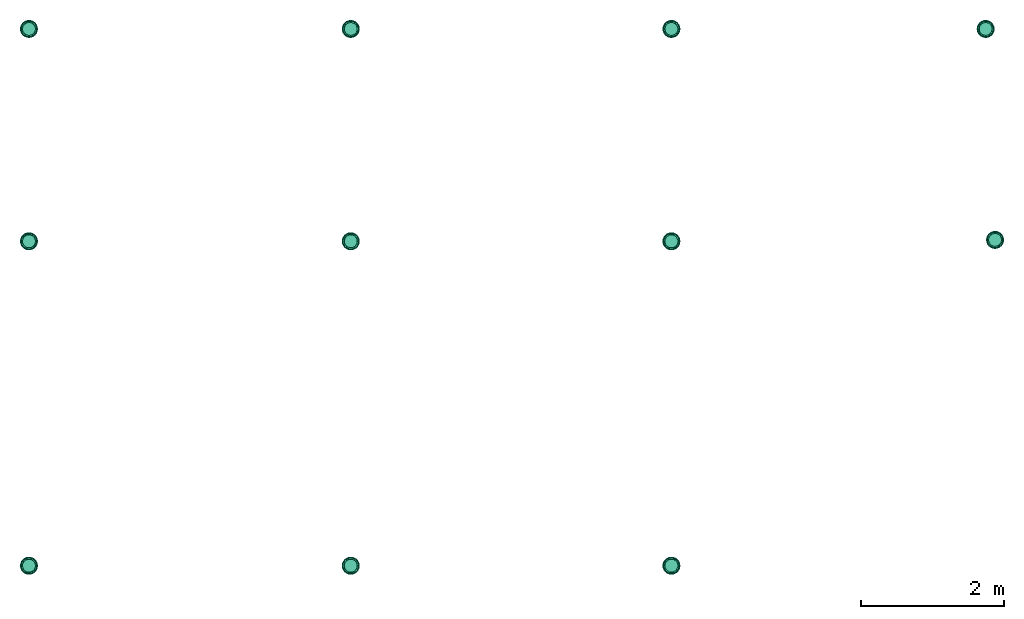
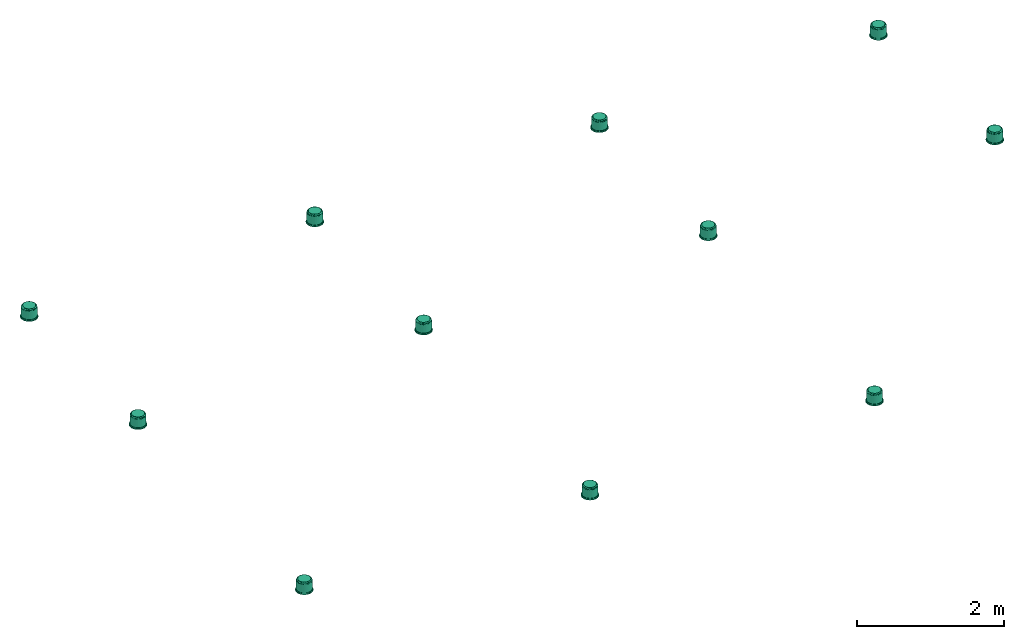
# One storey: 11 flow terminals.
"""IFC2X3 building model written with IfcOpenShell, lengths in millimetres."""

from ifc_helpers import new_model, entity, si_unit, converted_unit, derived_unit, direction, frame, origin_with_axes, place, context, subcontext, project, spatial, open_shell, surface_model, source, transform, mapped, type_object, element, save


model = new_model("IFC2X3")

# Units and contexts
model_context = context("Model", 3, precision=0.01, world=frame((0.0, 4.29681676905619e-09, 0.0)), true_north=direction((4.01073788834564e-13, 1.0)))
plan_context = context("Plan", 3, precision=0.01, world=frame((0.0, 4.29681676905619e-09, 0.0)), true_north=direction((4.01073788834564e-13, 1.0)))
body_context = subcontext(model_context, "Body", "Model", "MODEL_VIEW")
ifc_project = project(units=[converted_unit("PLANEANGLEUNIT", "DEGREE", entity("IfcPositiveLengthMeasure", 0.0174532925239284), si_unit("PLANEANGLEUNIT", "RADIAN"), dimensions=[0, 0, 0, 0, 0, 0, 0]), si_unit("AREAUNIT", "SQUARE_METRE"), si_unit("LENGTHUNIT", "METRE", prefix="MILLI"), si_unit("MASSUNIT", "GRAM", prefix="KILO"), si_unit("POWERUNIT", "WATT"), si_unit("PRESSUREUNIT", "PASCAL"), si_unit("FORCEUNIT", "NEWTON", prefix="KILO"), si_unit("ELECTRICVOLTAGEUNIT", "VOLT"), si_unit("ELECTRICCURRENTUNIT", "AMPERE"), si_unit("THERMODYNAMICTEMPERATUREUNIT", "DEGREE_CELSIUS"), si_unit("TIMEUNIT", "SECOND"), si_unit("VOLUMEUNIT", "CUBIC_METRE"), derived_unit("LINEARVELOCITYUNIT", [(si_unit("LENGTHUNIT", "METRE"), 1), (si_unit("TIMEUNIT", "SECOND"), -1)]), derived_unit("VOLUMETRICFLOWRATEUNIT", [(si_unit("VOLUMEUNIT", "CUBIC_METRE"), 1), (si_unit("TIMEUNIT", "SECOND"), -1)]), derived_unit("THERMALTRANSMITTANCEUNIT", [(si_unit("POWERUNIT", "WATT"), 1), (si_unit("THERMODYNAMICTEMPERATUREUNIT", "KELVIN"), -1), (si_unit("AREAUNIT", "SQUARE_METRE"), -1)]), derived_unit("SOUNDPRESSUREUNIT", [(si_unit("PRESSUREUNIT", "PASCAL"), 1)])], contexts=[model_context, plan_context])

# Site, building, storey
site_placement = place(None, frame((0.0, -4.29681676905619e-09, 0.0), z_axis=(0.0, 0.0, 1.0), x_axis=(1.0, 0.0, 0.0)))
site = spatial("IfcSite", under=ifc_project, at=site_placement, Name="ENGM", CompositionType="ELEMENT")
building_placement = place(site_placement, frame((0.0, 4.29681676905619e-09, 0.0), z_axis=(0.0, 0.0, 1.0), x_axis=(1.0, 0.0, 0.0)))
building = spatial("IfcBuilding", under=site, at=building_placement, Name="TS", CompositionType="ELEMENT")
storey_placement = place(building_placement, frame((0.0, 0.0, 207370.0), z_axis=(0.0, 0.0, 1.0), x_axis=(1.0, 0.0, 0.0)))
storey = spatial("IfcBuildingStorey", under=building, at=storey_placement, Name="Nivå E", CompositionType="ELEMENT", Elevation=207370.0)

# Flow terminals
electric_appliance_type = type_object("IfcElectricApplianceType", Name="Høyttaler innfelt", PredefinedType="NOTDEFINED")
shared_shape = source(origin_with_axes(), body_context, "Body", "SurfaceModel", [
    surface_model("IfcShellBasedSurfaceModel", [(-68.944, 57.85088, 184.0), (-58.59195, 79.97902, 179.50754), (-80.0329, 55.28406, 180.76938), (-78.29994, 75.83774, 166.88554), (-50.40099, 96.24365, 167.73947), (-65.24416, 89.80089, 159.0), (-45.0, 77.94229, 184.0), (104.29833, 0.0, 174.69059), (98.55658, 30.89802, 175.83351), (97.14917, 0.0, 179.3453), (-98.55658, 30.89802, 175.83351), (-104.29833, 0.0, 174.69059), (-97.14917, 0.0, 179.3453), (93.09772, 49.71788, 173.10261), (104.32878, 23.10743, 171.13623), (97.92626, 46.3605, 168.38431), (-15.62834, 88.6327, 184.0), (-30.79138, 92.23996, 180.78615), (-104.32878, 23.10743, 171.13623), (55.89313, 88.54638, 174.18746), (30.93861, 99.42219, 174.89528), (58.59195, 79.97902, 179.50754), (-97.92626, 46.3605, 168.38431), (-93.09772, 49.71788, 173.10261), (-61.47959, 85.0435, 173.90083), (-30.93861, 99.42219, 174.89528), (45.0, 77.94229, 184.0), (68.944, 57.85088, 184.0), (-84.57234, 30.78181, 184.0), (-92.49153, 28.27678, 181.10339), (-89.80089, 65.24416, 159.0), (17.39577, 107.47851, 167.19599), (34.30089, 105.56728, 159.0), (0.0, 111.0, 159.0), (-34.30089, 105.56728, 159.0), (-17.39574, 107.47094, 167.21376), (30.79138, 92.23996, 180.78615), (0.0, 99.14465, 179.50754), (15.62834, 88.6327, 184.0), (-81.90835, 64.40302, 174.81219), (0.05017, 105.30857, 173.41796), (80.0329, 55.28406, 180.76938), (84.57234, 30.78181, 184.0), (90.0, 0.0, 184.0), (92.49153, 28.27678, 181.10339), (50.40099, 96.24365, 167.73947), (89.80089, 65.24416, 159.0), (105.56728, 34.30089, 159.0), (65.24416, 89.80089, 159.0), (-105.56728, 34.30089, 159.0), (78.29994, 75.83774, 166.88554), (105.52114, 29.61929, 165.29825), (90.11049, 46.65977, 177.6147), (-90.11049, 46.65977, 177.6147), (-107.8502, 0.0, 166.3746), (-105.52114, 29.61929, 165.29825), (-90.0, 0.0, 184.0), (81.90835, 64.40302, 174.81219), (-111.0, 0.0, 159.0), (111.0, 0.0, 159.0), (107.8502, 0.0, 166.3746), (68.944, -57.85088, 184.0), (58.59195, -79.97902, 179.50754), (80.0329, -55.28406, 180.76938), (78.29994, -75.83774, 166.88554), (50.40099, -96.24365, 167.73947), (65.24416, -89.80089, 159.0), (45.0, -77.94229, 184.0), (-98.55658, -30.89802, 175.83351), (98.55658, -30.89802, 175.83351), (-93.09772, -49.71788, 173.10261), (-104.32878, -23.10743, 171.13623), (-97.92626, -46.3605, 168.38431), (15.62834, -88.6327, 184.0), (30.79138, -92.23996, 180.78615), (104.32878, -23.10743, 171.13623), (-55.89313, -88.54638, 174.18746), (-30.93861, -99.42219, 174.89528), (-58.59195, -79.97902, 179.50754), (97.92626, -46.3605, 168.38431), (93.09772, -49.71788, 173.10261), (61.47959, -85.0435, 173.90083), (30.93861, -99.42219, 174.89528), (-45.0, -77.94229, 184.0), (-68.944, -57.85088, 184.0), (84.57234, -30.78181, 184.0), (92.49153, -28.27678, 181.10339), (89.80089, -65.24416, 159.0), (-17.39577, -107.47851, 167.19599), (-34.30089, -105.56728, 159.0), (0.0, -111.0, 159.0), (34.30089, -105.56728, 159.0), (17.39574, -107.47094, 167.21376), (81.90835, -64.40302, 174.81219), (-30.79138, -92.23996, 180.78615), (-15.62834, -88.6327, 184.0), (0.0, -99.14465, 179.50754), (-0.05017, -105.30857, 173.41796), (-80.0329, -55.28406, 180.76938), (-84.57234, -30.78181, 184.0), (-92.49153, -28.27678, 181.10339), (-50.40099, -96.24365, 167.73947), (-89.80089, -65.24416, 159.0), (-105.56728, -34.30089, 159.0), (-65.24416, -89.80089, 159.0), (-78.29994, -75.83774, 166.88554), (-90.11049, -46.65977, 177.6147), (-105.52114, -29.61929, 165.29825), (105.56728, -34.30089, 159.0), (90.11049, -46.65977, 177.6147), (105.52114, -29.61929, 165.29825), (-81.90835, -64.40302, 174.81219), (0.0, 0.0, 159.0), (0.0, 0.0, 184.0), (96.12882, -55.5, 159.0), (28.72892, -107.21777, 159.0), (55.5, -96.12882, 159.0), (78.48885, -78.48885, 159.0), (107.21777, -28.72892, 159.0), (-78.48885, -78.48885, 159.0), (-96.12882, 55.5, 159.0), (-55.5, -96.12882, 159.0), (-28.72892, -107.21777, 159.0), (-96.12882, -55.5, 159.0), (-107.21777, -28.72892, 159.0), (107.21777, 28.72892, 159.0), (55.5, 96.12882, 159.0), (96.12882, 55.5, 159.0), (78.48885, 78.48885, 159.0), (28.72892, 107.21777, 159.0), (-28.72892, 107.21777, 159.0), (-107.21777, 28.72892, 159.0), (-78.48885, 78.48885, 159.0), (-55.5, 96.12882, 159.0), (28.72892, 107.21777, 20.0), (-28.72892, 107.21777, 20.0), (0.0, 111.0, 20.0), (96.12882, 55.5, 20.0), (55.5, 96.12882, 20.0), (107.21777, 28.72892, 20.0), (78.48885, 78.48885, 20.0), (-96.12882, 55.5, 20.0), (-78.48885, 78.48885, 20.0), (-55.5, 96.12882, 20.0), (-107.21777, 28.72892, 20.0), (-96.12882, -55.5, 20.0), (-111.0, 0.0, 20.0), (-78.48885, -78.48885, 20.0), (111.0, 0.0, 20.0), (107.21777, -28.72892, 20.0), (96.12882, -55.5, 20.0), (28.72892, -107.21777, 20.0), (55.5, -96.12882, 20.0), (78.48885, -78.48885, 20.0), (-107.21777, -28.72892, 20.0), (-55.5, -96.12882, 20.0), (0.0, -111.0, 20.0), (-28.72892, -107.21777, 20.0), (0.0, -118.0, 20.0), (30.54065, -113.97924, 20.0), (59.0, -102.191, 20.0), (83.4386, -83.4386, 20.0), (102.191, -59.0, 20.0), (113.97924, -30.54065, 20.0), (118.0, 0.0, 20.0), (-30.54065, -113.97924, 20.0), (-83.4386, -83.4386, 20.0), (-59.0, -102.191, 20.0), (-118.0, 0.0, 20.0), (-102.191, -59.0, 20.0), (-113.97924, -30.54065, 20.0), (113.97924, 30.54065, 20.0), (102.191, 59.0, 20.0), (83.4386, 83.4386, 20.0), (59.0, 102.191, 20.0), (30.54065, 113.97924, 20.0), (0.0, 118.0, 20.0), (-30.54065, 113.97924, 20.0), (-102.191, 59.0, 20.0), (-113.97924, 30.54065, 20.0), (-83.4386, 83.4386, 20.0), (-59.0, 102.191, 20.0), (0.0, 118.0, 0.0), (30.54065, 113.97924, 0.0), (59.0, 102.191, 0.0), (-83.4386, 83.4386, 0.0), (83.4386, 83.4386, 0.0), (102.191, 59.0, 0.0), (113.97924, 30.54065, 0.0), (-118.0, 0.0, 0.0), (-113.97924, -30.54065, 0.0), (-30.54065, 113.97924, 0.0), (-59.0, 102.191, 0.0), (-102.191, 59.0, 0.0), (-113.97924, 30.54065, 0.0), (118.0, 0.0, 0.0), (113.97924, -30.54065, 0.0), (102.191, -59.0, 0.0), (83.4386, -83.4386, 0.0), (59.0, -102.191, 0.0), (30.54065, -113.97924, 0.0), (-83.4386, -83.4386, 0.0), (-102.191, -59.0, 0.0), (-30.54065, -113.97924, 0.0), (-59.0, -102.191, 0.0), (0.0, -118.0, 0.0), (-32.35238, 120.74073, 0.0), (-62.5, 108.25318, 0.0), (-88.38835, 88.38835, 0.0), (-108.25318, 62.5, 0.0), (-120.74073, 32.35238, 0.0), (62.5, 108.25318, 0.0), (-125.0, 0.0, 0.0), (0.0, 125.0, 0.0), (32.35238, 120.74073, 0.0), (88.38835, 88.38835, 0.0), (120.74073, 32.35238, 0.0), (108.25318, 62.5, 0.0), (-120.74073, -32.35238, 0.0), (125.0, 0.0, 0.0), (-108.25318, -62.5, 0.0), (-32.35238, -120.74073, 0.0), (-88.38835, -88.38835, 0.0), (-62.5, -108.25318, 0.0), (0.0, -125.0, 0.0), (120.74073, -32.35238, 0.0), (88.38835, -88.38835, 0.0), (108.25318, -62.5, 0.0), (32.35238, -120.74073, 0.0), (62.5, -108.25318, 0.0), (-32.35238, -120.74073, -3.0), (88.38835, -88.38835, -3.0), (0.0, -125.0, -3.0), (-88.38835, -88.38835, -3.0), (-62.5, -108.25318, -3.0), (-108.25318, -62.5, -3.0), (-120.74073, -32.35238, -3.0), (88.38835, 88.38835, -3.0), (32.35238, -120.74073, -3.0), (62.5, -108.25318, -3.0), (120.74073, -32.35238, -3.0), (108.25318, -62.5, -3.0), (125.0, 0.0, -3.0), (-125.0, 0.0, -3.0), (-120.74073, 32.35238, -3.0), (-32.35238, 120.74073, -3.0), (-108.25318, 62.5, -3.0), (-88.38835, 88.38835, -3.0), (-62.5, 108.25318, -3.0), (120.74073, 32.35238, -3.0), (108.25318, 62.5, -3.0), (62.5, 108.25318, -3.0), (0.0, 125.0, -3.0), (32.35238, 120.74073, -3.0), (-84.57234, 30.78181, -6.0), (-102.5, 0.0, -5.0), (-96.31849, 35.05706, -5.0), (-45.0, 77.94229, -6.0), (-78.51955, 65.88573, -5.0), (-51.25, 88.7676, -5.0), (-68.944, 57.85088, -6.0), (-17.79894, 100.94279, -5.0), (-15.62834, 88.6327, -6.0), (-90.0, 0.0, -6.0), (15.62834, 88.6327, -6.0), (45.0, 77.94229, -6.0), (17.79894, 100.94279, -5.0), (51.25, 88.7676, -5.0), (96.31849, 35.05706, -5.0), (102.5, 0.0, -5.0), (90.0, 0.0, -6.0), (78.51955, 65.88573, -5.0), (68.944, 57.85088, -6.0), (84.57234, 30.78181, -6.0), (84.57234, -30.78181, -6.0), (96.31849, -35.05706, -5.0), (45.0, -77.94229, -6.0), (78.51955, -65.88573, -5.0), (51.25, -88.7676, -5.0), (68.944, -57.85088, -6.0), (17.79894, -100.94279, -5.0), (15.62834, -88.6327, -6.0), (-15.62834, -88.6327, -6.0), (-45.0, -77.94229, -6.0), (-17.79894, -100.94279, -5.0), (-51.25, -88.7676, -5.0), (-84.57234, -30.78181, -6.0), (-78.51955, -65.88573, -5.0), (-96.31849, -35.05706, -5.0), (-68.944, -57.85088, -6.0), (0.0, 0.0, -6.0), (106.99386, 34.76441, -3.0), (0.0, 0.0, -3.0), (112.5, 0.0, -3.0), (91.01441, 66.12584, -3.0), (66.12584, 91.01441, -3.0), (34.76441, 106.99386, -3.0), (0.0, 112.5, -3.0), (-91.01441, 66.12584, -3.0), (-106.99386, 34.76441, -3.0), (-66.12584, 91.01441, -3.0), (-34.76441, 106.99386, -3.0), (-112.5, 0.0, -3.0), (66.12584, -91.01441, -3.0), (91.01441, -66.12584, -3.0), (34.76441, -106.99386, -3.0), (106.99386, -34.76441, -3.0), (0.0, -112.5, -3.0), (-66.12584, -91.01441, -3.0), (-34.76441, -106.99386, -3.0), (-91.01441, -66.12584, -3.0), (-106.99386, -34.76441, -3.0)], [open_shell([[[0, 1, 2]], [[3, 4, 5]], [[0, 6, 1]], [[7, 8, 9]], [[10, 11, 12]], [[13, 14, 15]], [[7, 14, 8]], [[6, 16, 17]], [[18, 11, 10]], [[19, 20, 21]], [[22, 23, 3]], [[24, 25, 4]], [[26, 27, 21]], [[28, 2, 29]], [[3, 5, 30]], [[31, 32, 33]], [[33, 34, 35]], [[36, 37, 38]], [[4, 35, 34]], [[1, 24, 39]], [[26, 36, 38]], [[17, 37, 25]], [[20, 31, 40]], [[21, 20, 36]], [[41, 21, 27]], [[41, 27, 42]], [[0, 2, 28]], [[43, 9, 44]], [[20, 19, 45]], [[46, 15, 47]], [[17, 1, 6]], [[31, 20, 45]], [[48, 32, 45]], [[30, 49, 22]], [[34, 5, 4]], [[15, 46, 50]], [[14, 51, 15]], [[48, 50, 46]], [[33, 35, 31]], [[8, 13, 52]], [[2, 39, 53]], [[37, 16, 38]], [[54, 18, 55]], [[28, 29, 56]], [[45, 19, 50]], [[37, 17, 16]], [[1, 17, 25]], [[21, 36, 26]], [[37, 36, 20]], [[1, 39, 2]], [[23, 53, 39]], [[44, 41, 42]], [[57, 21, 41]], [[10, 12, 29]], [[22, 18, 23]], [[13, 8, 14]], [[52, 41, 44]], [[4, 25, 35]], [[25, 37, 40]], [[31, 35, 40]], [[45, 32, 31]], [[22, 3, 30]], [[3, 39, 24]], [[45, 50, 48]], [[50, 57, 13]], [[58, 54, 55]], [[23, 18, 10]], [[59, 47, 51]], [[56, 29, 12]], [[43, 44, 42]], [[8, 44, 9]], [[25, 40, 35]], [[20, 40, 37]], [[25, 24, 1]], [[3, 24, 4]], [[21, 57, 19]], [[50, 19, 57]], [[53, 23, 10]], [[3, 23, 39]], [[10, 29, 53]], [[2, 53, 29]], [[50, 13, 15]], [[52, 13, 57]], [[41, 52, 57]], [[44, 8, 52]], [[55, 18, 22]], [[54, 11, 18]], [[22, 49, 55]], [[55, 49, 58]], [[7, 60, 14]], [[60, 59, 51]], [[60, 51, 14]], [[47, 15, 51]], [[61, 62, 63]], [[64, 65, 66]], [[61, 67, 62]], [[11, 68, 12]], [[69, 7, 9]], [[70, 71, 72]], [[11, 71, 68]], [[67, 73, 74]], [[75, 7, 69]], [[76, 77, 78]], [[79, 80, 64]], [[81, 82, 65]], [[83, 84, 78]], [[85, 63, 86]], [[64, 66, 87]], [[88, 89, 90]], [[90, 91, 92]], [[91, 66, 65]], [[65, 92, 91]], [[62, 81, 93]], [[83, 94, 95]], [[74, 96, 82]], [[77, 88, 97]], [[78, 77, 94]], [[98, 78, 84]], [[98, 84, 99]], [[61, 63, 85]], [[56, 12, 100]], [[77, 76, 101]], [[102, 72, 103]], [[104, 105, 102]], [[88, 77, 101]], [[104, 89, 101]], [[68, 70, 106]], [[74, 62, 67]], [[72, 102, 105]], [[71, 107, 72]], [[87, 108, 79]], [[90, 92, 88]], [[94, 96, 95]], [[63, 93, 109]], [[96, 73, 95]], [[60, 75, 110]], [[85, 86, 43]], [[101, 76, 105]], [[96, 74, 73]], [[62, 74, 82]], [[78, 94, 83]], [[96, 94, 77]], [[62, 93, 63]], [[80, 109, 93]], [[100, 98, 99]], [[111, 78, 98]], [[69, 9, 86]], [[79, 75, 80]], [[70, 68, 71]], [[106, 98, 100]], [[65, 82, 92]], [[82, 96, 97]], [[88, 92, 97]], [[101, 89, 88]], [[79, 64, 87]], [[64, 93, 81]], [[101, 105, 104]], [[105, 111, 70]], [[59, 60, 110]], [[80, 75, 69]], [[58, 103, 107]], [[43, 86, 9]], [[56, 100, 99]], [[68, 100, 12]], [[82, 97, 92]], [[77, 97, 96]], [[82, 81, 62]], [[64, 81, 65]], [[78, 111, 76]], [[105, 76, 111]], [[109, 80, 69]], [[64, 80, 93]], [[69, 86, 109]], [[63, 109, 86]], [[105, 70, 72]], [[106, 70, 111]], [[98, 106, 111]], [[100, 68, 106]], [[110, 75, 79]], [[60, 7, 75]], [[79, 108, 110]], [[110, 108, 59]], [[11, 54, 71]], [[54, 58, 107]], [[54, 107, 71]], [[103, 72, 107]], [[59, 112, 47]], [[47, 112, 46]], [[112, 48, 46]], [[48, 112, 32]], [[112, 33, 32]], [[112, 49, 30]], [[30, 5, 112]], [[34, 33, 112]], [[112, 5, 34]], [[112, 58, 49]], [[112, 87, 66]], [[112, 66, 91]], [[112, 108, 87]], [[59, 108, 112]], [[91, 90, 112]], [[112, 89, 104]], [[112, 104, 102]], [[112, 103, 58]], [[103, 112, 102]], [[89, 112, 90]], [[27, 113, 42]], [[26, 113, 27]], [[113, 26, 38]], [[113, 43, 42]], [[28, 56, 113]], [[0, 28, 113]], [[16, 6, 113]], [[0, 113, 6]], [[38, 16, 113]], [[67, 61, 113]], [[61, 85, 113]], [[113, 85, 43]], [[73, 67, 113]], [[83, 95, 113]], [[84, 83, 113]], [[56, 99, 113]], [[84, 113, 99]], [[73, 113, 95]], [[114, 115, 116]], [[114, 116, 117]], [[114, 118, 59]], [[114, 59, 115]], [[119, 115, 120]], [[90, 121, 122]], [[90, 115, 121]], [[123, 58, 124]], [[121, 115, 119]], [[123, 119, 58]], [[125, 115, 59]], [[126, 125, 127]], [[126, 127, 128]], [[125, 129, 120]], [[129, 125, 126]], [[130, 129, 33]], [[119, 131, 58]], [[120, 131, 119]], [[132, 130, 133]], [[130, 132, 120]], [[129, 130, 120]], [[120, 115, 125]], [[134, 135, 136]], [[137, 134, 138]], [[137, 139, 134]], [[137, 138, 140]], [[141, 134, 139]], [[135, 142, 143]], [[142, 135, 141]], [[144, 145, 146]], [[141, 135, 134]], [[144, 141, 145]], [[141, 139, 147]], [[148, 149, 150]], [[150, 151, 139]], [[152, 151, 150]], [[152, 150, 153]], [[139, 151, 147]], [[146, 145, 154]], [[147, 145, 141]], [[155, 156, 157]], [[155, 147, 151]], [[156, 155, 151]], [[139, 148, 150]], [[124, 154, 145]], [[147, 123, 145]], [[121, 155, 157]], [[147, 155, 119]], [[122, 157, 156]], [[154, 58, 146]], [[154, 124, 58]], [[145, 123, 124]], [[147, 119, 123]], [[121, 119, 155]], [[157, 122, 121]], [[156, 90, 122]], [[115, 151, 152]], [[153, 116, 152]], [[114, 150, 149]], [[153, 150, 117]], [[118, 149, 148]], [[151, 115, 90]], [[152, 116, 115]], [[153, 117, 116]], [[150, 114, 117]], [[118, 114, 149]], [[148, 59, 118]], [[151, 90, 156]], [[125, 148, 139]], [[127, 139, 137]], [[126, 138, 134]], [[129, 134, 136]], [[139, 127, 125]], [[125, 59, 148]], [[140, 128, 127]], [[140, 138, 128]], [[128, 138, 126]], [[134, 129, 126]], [[140, 127, 137]], [[136, 33, 129]], [[130, 135, 143]], [[142, 133, 143]], [[120, 141, 144]], [[142, 141, 132]], [[131, 144, 146]], [[135, 130, 33]], [[143, 133, 130]], [[142, 132, 133]], [[141, 120, 132]], [[131, 120, 144]], [[146, 58, 131]], [[135, 33, 136]], [[158, 159, 160]], [[161, 158, 160]], [[162, 163, 164]], [[158, 161, 162]], [[158, 162, 164]], [[165, 166, 167]], [[166, 165, 158]], [[164, 166, 158]], [[166, 168, 169]], [[169, 168, 170]], [[168, 166, 164]], [[171, 172, 173]], [[168, 171, 173]], [[174, 175, 176]], [[168, 173, 174]], [[177, 174, 176]], [[168, 178, 179]], [[178, 168, 177]], [[180, 177, 181]], [[177, 180, 178]], [[168, 174, 177]], [[171, 168, 164]], [[182, 183, 184]], [[185, 182, 184]], [[186, 187, 188]], [[189, 184, 186]], [[190, 189, 186]], [[191, 185, 192]], [[191, 182, 185]], [[193, 189, 194]], [[185, 184, 193]], [[184, 189, 193]], [[186, 188, 190]], [[195, 196, 197]], [[197, 198, 188]], [[190, 198, 199]], [[198, 190, 188]], [[200, 190, 199]], [[200, 201, 202]], [[202, 190, 200]], [[201, 203, 204]], [[203, 201, 205]], [[205, 201, 200]], [[188, 195, 197]], [[190, 170, 189]], [[202, 169, 190]], [[167, 201, 204]], [[202, 201, 166]], [[165, 204, 203]], [[190, 169, 170]], [[170, 168, 189]], [[165, 167, 204]], [[166, 201, 167]], [[166, 169, 202]], [[158, 165, 203]], [[203, 205, 158]], [[200, 159, 205]], [[199, 160, 200]], [[162, 198, 197]], [[199, 198, 161]], [[163, 197, 196]], [[199, 161, 160]], [[160, 159, 200]], [[164, 163, 196]], [[162, 197, 163]], [[162, 161, 198]], [[195, 164, 196]], [[205, 159, 158]], [[188, 171, 195]], [[187, 172, 188]], [[174, 186, 184]], [[187, 186, 173]], [[175, 184, 183]], [[188, 172, 171]], [[171, 164, 195]], [[175, 174, 184]], [[173, 186, 174]], [[173, 172, 187]], [[176, 175, 183]], [[183, 182, 176]], [[191, 177, 182]], [[192, 181, 191]], [[179, 194, 189]], [[185, 180, 192]], [[192, 180, 181]], [[181, 177, 191]], [[193, 178, 180]], [[193, 194, 178]], [[178, 194, 179]], [[189, 168, 179]], [[193, 180, 185]], [[182, 177, 176]], [[206, 207, 208]], [[206, 208, 209]], [[206, 210, 211]], [[210, 206, 209]], [[211, 210, 212]], [[213, 211, 214]], [[213, 206, 211]], [[215, 216, 217]], [[218, 215, 211]], [[219, 216, 215]], [[218, 211, 212]], [[220, 219, 218]], [[221, 220, 222]], [[220, 221, 219]], [[221, 222, 223]], [[224, 219, 221]], [[225, 226, 227]], [[226, 225, 219]], [[226, 228, 229]], [[228, 226, 219]], [[219, 224, 228]], [[218, 219, 215]], [[230, 231, 232]], [[233, 230, 234]], [[235, 236, 230]], [[235, 230, 233]], [[230, 237, 231]], [[238, 231, 239]], [[238, 232, 231]], [[231, 240, 241]], [[240, 231, 242]], [[231, 237, 242]], [[230, 236, 243]], [[244, 237, 243]], [[245, 244, 246]], [[247, 248, 245]], [[247, 245, 246]], [[237, 244, 245]], [[249, 237, 250]], [[242, 237, 249]], [[251, 252, 253]], [[252, 251, 237]], [[245, 252, 237]], [[237, 230, 243]], [[249, 216, 242]], [[250, 217, 249]], [[211, 237, 251]], [[250, 237, 215]], [[214, 251, 253]], [[249, 217, 216]], [[216, 219, 242]], [[214, 211, 251]], [[215, 237, 211]], [[215, 217, 250]], [[213, 214, 253]], [[253, 252, 213]], [[245, 206, 252]], [[248, 207, 245]], [[209, 247, 246]], [[248, 247, 208]], [[210, 246, 244]], [[248, 208, 207]], [[207, 206, 245]], [[212, 210, 244]], [[209, 246, 210]], [[209, 208, 247]], [[243, 212, 244]], [[252, 206, 213]], [[236, 218, 243]], [[235, 220, 236]], [[223, 233, 234]], [[235, 233, 222]], [[221, 234, 230]], [[236, 220, 218]], [[218, 212, 243]], [[221, 223, 234]], [[222, 233, 223]], [[222, 220, 235]], [[224, 221, 230]], [[230, 232, 224]], [[228, 232, 238]], [[239, 229, 238]], [[227, 241, 240]], [[225, 240, 242]], [[239, 226, 229]], [[229, 228, 238]], [[231, 227, 226]], [[231, 241, 227]], [[227, 240, 225]], [[242, 219, 225]], [[231, 226, 239]], [[232, 228, 224]], [[254, 255, 256]], [[257, 258, 259]], [[256, 258, 260]], [[259, 261, 262]], [[263, 255, 254]], [[258, 257, 260]], [[260, 254, 256]], [[257, 259, 262]], [[261, 264, 262]], [[265, 266, 267]], [[268, 269, 270]], [[267, 271, 272]], [[268, 272, 271]], [[264, 266, 265]], [[265, 267, 272]], [[270, 273, 268]], [[268, 273, 272]], [[266, 264, 261]], [[274, 269, 275]], [[276, 277, 278]], [[275, 277, 279]], [[278, 280, 281]], [[270, 269, 274]], [[277, 276, 279]], [[279, 274, 275]], [[276, 278, 281]], [[280, 282, 281]], [[283, 284, 285]], [[286, 287, 288]], [[285, 287, 289]], [[288, 255, 263]], [[282, 284, 283]], [[287, 286, 289]], [[289, 283, 285]], [[286, 288, 263]], [[284, 282, 280]], [[273, 290, 272]], [[272, 290, 265]], [[264, 265, 290]], [[273, 270, 290]], [[290, 263, 254]], [[290, 254, 260]], [[290, 257, 262]], [[257, 290, 260]], [[290, 262, 264]], [[290, 279, 276]], [[290, 274, 279]], [[270, 274, 290]], [[290, 276, 281]], [[290, 282, 283]], [[290, 283, 289]], [[290, 286, 263]], [[286, 290, 289]], [[282, 290, 281]], [[291, 292, 293]], [[294, 292, 291]], [[294, 295, 292]], [[296, 292, 295]], [[296, 297, 292]], [[298, 299, 292]], [[292, 300, 298]], [[292, 297, 301]], [[301, 300, 292]], [[299, 302, 292]], [[303, 304, 292]], [[305, 303, 292]], [[304, 306, 292]], [[292, 306, 293]], [[292, 307, 305]], [[308, 309, 292]], [[310, 308, 292]], [[302, 311, 292]], [[310, 292, 311]], [[307, 292, 309]], [[255, 302, 299]], [[258, 298, 300]], [[299, 298, 256]], [[300, 301, 259]], [[255, 299, 256]], [[300, 259, 258]], [[258, 256, 298]], [[259, 301, 261]], [[301, 297, 261]], [[266, 297, 296]], [[291, 293, 269]], [[267, 296, 295]], [[295, 271, 267]], [[267, 266, 296]], [[291, 268, 294]], [[268, 291, 269]], [[294, 268, 271]], [[294, 271, 295]], [[297, 266, 261]], [[269, 293, 306]], [[277, 304, 303]], [[306, 304, 275]], [[303, 305, 278]], [[269, 306, 275]], [[303, 278, 277]], [[277, 275, 304]], [[278, 305, 280]], [[305, 307, 280]], [[284, 307, 309]], [[287, 308, 310]], [[309, 308, 285]], [[310, 311, 288]], [[308, 287, 285]], [[285, 284, 309]], [[311, 255, 288]], [[288, 287, 310]], [[311, 302, 255]], [[307, 284, 280]]])]),
])
for number, where, z_axis, x_axis in (
    (1, (522248.96168, 449189.33553, 3000.0), (0.0, 0.0, 1.0), (0.0, 1.0, 0.0)),
    (2, (526741.76306, 449189.33553, 3000.0), (0.0, 0.0, 1.0), (0.0, 1.0, 0.0)),
    (3, (531217.9967, 449189.33553, 3000.0), (0.0, 0.0, 1.0), (0.0, 1.0, 0.0)),
    (4, (531217.9967, 446225.13422, 3000.0), (0.0, 0.0, 1.0), (0.0, 1.0, 0.0)),
    (5, (526741.76306, 446225.13422, 3000.0), (0.0, 0.0, 1.0), (0.0, 1.0, 0.0)),
    (6, (522248.96168, 446225.13422, 3000.0), (0.0, 0.0, 1.0), (0.0, 1.0, 0.0)),
    (7, (522248.96168, 441695.84392, 3000.0), (0.0, 0.0, 1.0), (0.0, 1.0, 0.0)),
    (8, (526741.76306, 441695.84392, 3000.0), (0.0, 0.0, 1.0), (0.0, 1.0, 0.0)),
    (9, (531217.9967, 441695.84392, 3000.0), (0.0, 0.0, 1.0), (0.0, 1.0, 0.0)),
    (10, (535604.7875, 449189.33553, 3000.0), (0.0, 0.0, 1.0), (0.0, 1.0, 0.0)),
    (11, (535736.04292, 446244.31525, 3000.0), (0.0, 0.0, 1.0), (0.0, 1.0, 0.0)),
):
    element("IfcFlowTerminal", number, at=place(storey_placement, frame(where, z_axis=z_axis, x_axis=x_axis)), inside=storey, type_object=electric_appliance_type, Name="Høyttaler innfelt", context=body_context, shape_type="MappedRepresentation", body=[
        mapped(shared_shape, transform((0.0, 0.0, 0.0), scale=1.0)),
    ])

save(model, "model.ifc")
